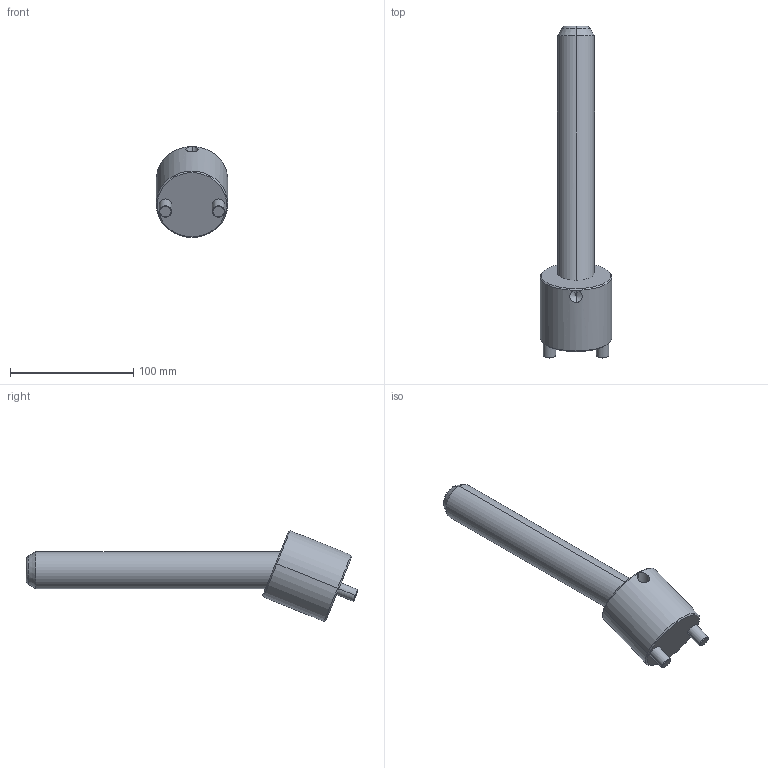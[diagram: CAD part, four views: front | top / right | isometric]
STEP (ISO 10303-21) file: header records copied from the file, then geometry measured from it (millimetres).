
FILE_DESCRIPTION((''),'2;1');
FILE_NAME('2230200_ASM','2018-01-21T',('MANU'),(''),'PRO/ENGINEER BY PARAMETRIC TECHNOLOGY CORPORATION, 2012130','PRO/ENGINEER BY PARAMETRIC TECHNOLOGY CORPORATION, 2012130','');
FILE_SCHEMA(('CONFIG_CONTROL_DESIGN'));
Length unit declared in the file: millimetre
Products named in the file (3): CP30200; CS2230; 2230200_ASM
Assembly tree (2 placements, depth 2):
  2230200_ASM
    CP30200
    CS2230
Bounding box: 58 x 268.84 x 73.63 mm (x, y, z)
Volume: 285147 mm3; surface area: 44861.1 mm2
Topology: 2 solids, 2 shells, 37 faces, 79 edges, 45 vertices
Faces by surface type: cone 14, cylinder 14, plane 7, torus 2
Entity records: 1233 total; most frequent: CARTESIAN_POINT 349, DIRECTION 188, ORIENTED_EDGE 154, AXIS2_PLACEMENT_3D 79, EDGE_CURVE 77, VERTEX_POINT 45, EDGE_LOOP 40, FACE_OUTER_BOUND 37
